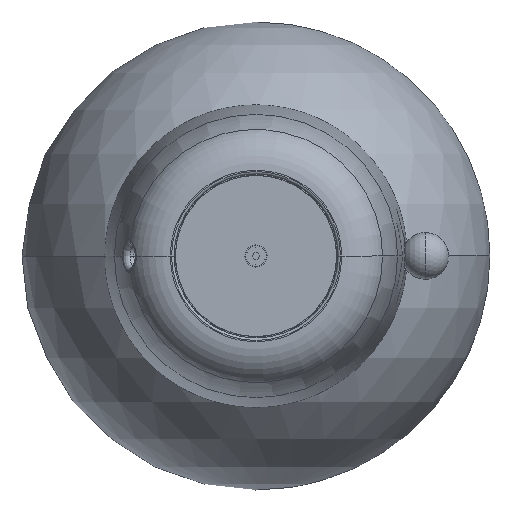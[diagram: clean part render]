
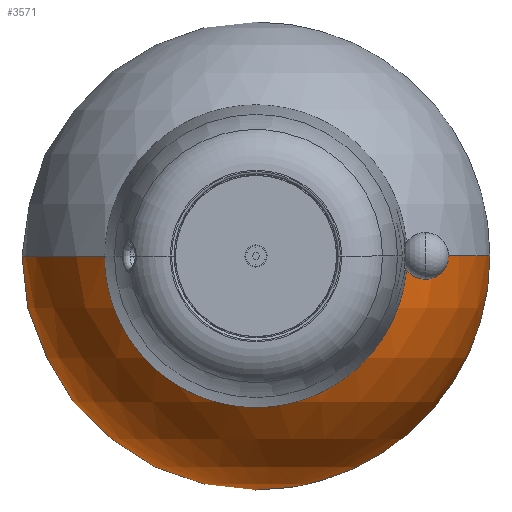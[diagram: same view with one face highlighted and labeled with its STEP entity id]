
A CAD part, front view. The second image highlights one B-rep face of the part: STEP entity #3571.
In plain terms, the highlighted spherical face has radius 90 mm.
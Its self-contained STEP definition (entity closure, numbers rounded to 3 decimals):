
#394 = CARTESIAN_POINT ( 'NONE',  ( 0., -88.566, 0. ) ) ;
#405 = DIRECTION ( 'NONE',  ( 0., -1., 0. ) ) ;
#406 = DIRECTION ( 'NONE',  ( 0., 0., -1. ) ) ;
#1463 = CIRCLE ( 'NONE', #3480, 16. ) ;
#1557 = CIRCLE ( 'NONE', #3405, 90. ) ;
#1595 = CIRCLE ( 'NONE', #3330, 16. ) ;
#1610 = CIRCLE ( 'NONE', #3400, 90. ) ;
#1801 = EDGE_CURVE ( 'NONE', #3799, #3797, #1610, .T. ) ;
#1808 = EDGE_CURVE ( 'NONE', #3799, #3800, #1557, .T. ) ;
#1820 = EDGE_CURVE ( 'NONE', #3798, #3800, #1463, .T. ) ;
#1995 = SPHERICAL_SURFACE ( 'NONE', #3289, 90. ) ;
#1998 = FACE_OUTER_BOUND ( 'NONE', #5553, .T. ) ;
#2696 = ORIENTED_EDGE ( 'NONE', *, *, #1820, .F. ) ;
#2776 = ORIENTED_EDGE ( 'NONE', *, *, #3484, .F. ) ;
#3082 = ORIENTED_EDGE ( 'NONE', *, *, #1801, .F. ) ;
#3182 = ORIENTED_EDGE ( 'NONE', *, *, #1808, .T. ) ;
#3289 = AXIS2_PLACEMENT_3D ( 'NONE', #6721, #6720, #6722 ) ;
#3330 = AXIS2_PLACEMENT_3D ( 'NONE', #394, #405, #406 ) ;
#3400 = AXIS2_PLACEMENT_3D ( 'NONE', #3965, #3968, #3970 ) ;
#3405 = AXIS2_PLACEMENT_3D ( 'NONE', #4007, #4015, #4017 ) ;
#3480 = AXIS2_PLACEMENT_3D ( 'NONE', #4104, #4107, #4109 ) ;
#3484 = EDGE_CURVE ( 'NONE', #3797, #3798, #1595, .T. ) ;
#3571 = ADVANCED_FACE ( 'NONE', ( #1998 ), #1995, .T. ) ;
#3797 = VERTEX_POINT ( 'NONE', #5332 ) ;
#3798 = VERTEX_POINT ( 'NONE', #5333 ) ;
#3799 = VERTEX_POINT ( 'NONE', #5334 ) ;
#3800 = VERTEX_POINT ( 'NONE', #5335 ) ;
#3965 = CARTESIAN_POINT ( 'NONE',  ( 0., 0., 0. ) ) ;
#3968 = DIRECTION ( 'NONE',  ( 0., 0., 1. ) ) ;
#3970 = DIRECTION ( 'NONE',  ( 1., 0., 0. ) ) ;
#4007 = CARTESIAN_POINT ( 'NONE',  ( 0., 0., 0. ) ) ;
#4015 = DIRECTION ( 'NONE',  ( 0., 0., -1. ) ) ;
#4017 = DIRECTION ( 'NONE',  ( -1., 0., 0. ) ) ;
#4104 = CARTESIAN_POINT ( 'NONE',  ( 0., -88.566, 0. ) ) ;
#4107 = DIRECTION ( 'NONE',  ( 0., -1., 0. ) ) ;
#4109 = DIRECTION ( 'NONE',  ( 0., 0., -1. ) ) ;
#5332 = CARTESIAN_POINT ( 'NONE',  ( -16., -88.566, 0. ) ) ;
#5333 = CARTESIAN_POINT ( 'NONE',  ( 0., -88.566, -16. ) ) ;
#5334 = CARTESIAN_POINT ( 'NONE',  ( 0., 90., 0. ) ) ;
#5335 = CARTESIAN_POINT ( 'NONE',  ( 16., -88.566, 0. ) ) ;
#5553 = EDGE_LOOP ( 'NONE', ( #3082, #3182, #2696, #2776 ) ) ;
#6720 = DIRECTION ( 'NONE',  ( 0., 0., 1. ) ) ;
#6721 = CARTESIAN_POINT ( 'NONE',  ( 0., 0., 0. ) ) ;
#6722 = DIRECTION ( 'NONE',  ( 1., 0., 0. ) ) ;
